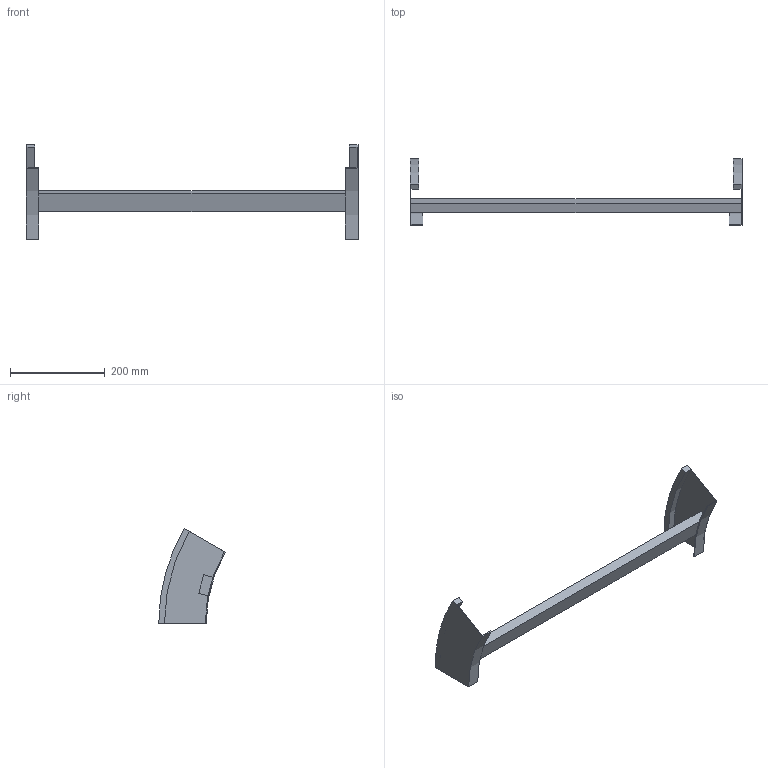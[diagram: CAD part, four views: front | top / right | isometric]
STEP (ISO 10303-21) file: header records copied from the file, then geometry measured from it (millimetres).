
FILE_DESCRIPTION (( 'STEP AP214' ), '1' );
FILE_NAME ('B2_35B3D700.step', '2025-02-21T14:47:01', ( '' ), ( '' ), 'SwSTEP 2.0', 'SolidWorks 2023', '' );
FILE_SCHEMA (( 'AUTOMOTIVE_DESIGN' ));
Length unit declared in the file: millimetre
Products named in the file (3): TRAVERSINO_700; B2_35B3D700; B2_LONGH.DISCESA_30°_H100_R300
Assembly tree (3 placements, depth 2):
  B2_35B3D700
    B2_LONGH.DISCESA_30°_H100_R300  x2
    TRAVERSINO_700
Bounding box: 700 x 140.19 x 200 mm (x, y, z)
Volume: 732042.6 mm3; surface area: 191337.3 mm2
Topology: 3 solids, 3 shells, 26 faces, 60 edges, 40 vertices
Faces by surface type: plane 18, cylinder 8
Entity records: 544 total; most frequent: DIRECTION 88, CARTESIAN_POINT 82, ORIENTED_EDGE 72, EDGE_CURVE 36, AXIS2_PLACEMENT_3D 30, LINE 28, VECTOR 28, VERTEX_POINT 24
